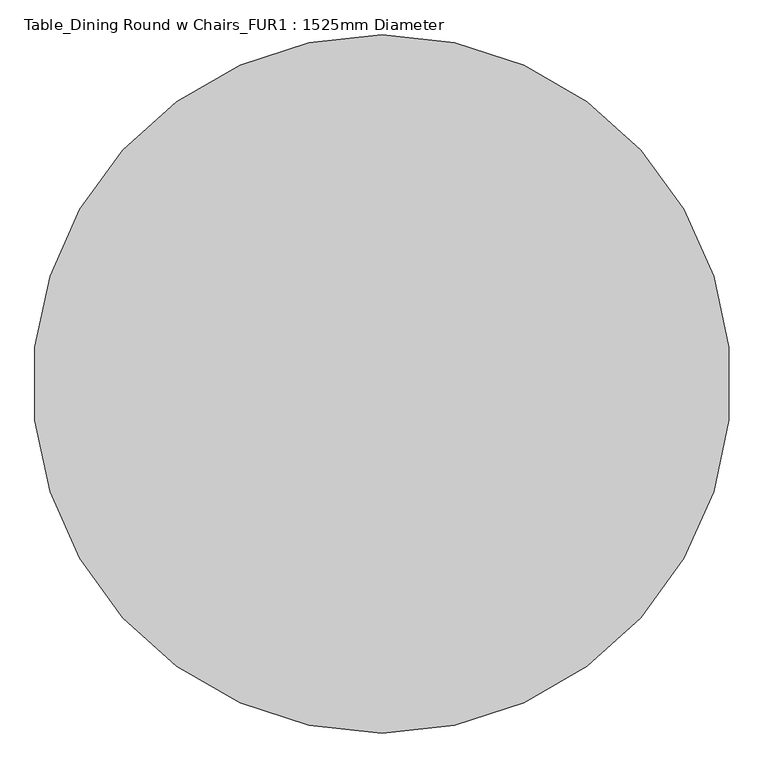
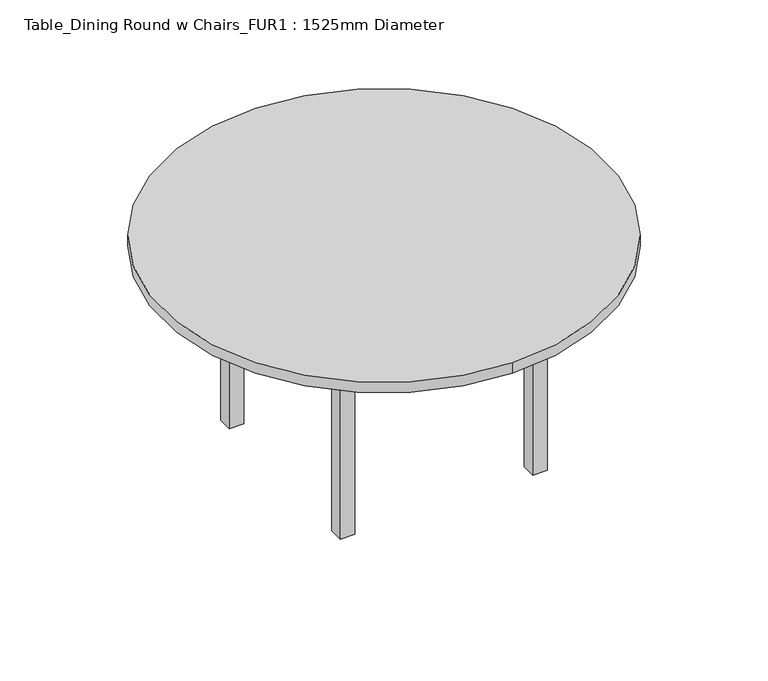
"""IFC4 building model written with IfcOpenShell, lengths in millimetres: furniture geometry, Table_Dining Round w Chairs_FUR1 : 1525mm Diameter."""

from ifc_helpers import new_model, si_unit, point, frame, frame_2d, origin, origin_with_axes, place, context, project, spatial, polyline, circle_curve, trimmed, segment, composite_curve, outline, extrude, source, transform, mapped, element, save


def table_dining_round_w_chairs_fur1_1525mm_diameter_24f27617(model_context):
    return source(origin(), model_context, "Body", "SweptSolid", [
        extrude(outline(polyline([(-201.3680328, -170.9713115), (-252.1680328, -170.9713115), (-252.1680328, -120.1713115), (-201.3680328, -120.1713115), (-201.3680328, -170.9713115)])), origin_with_axes(), (0.0, 0.0, 1.0), 647.7),
        extrude(outline(polyline([(408.7319672, -170.9713115), (408.7319672, -120.1713115), (459.5319672, -120.1713115), (459.5319672, -170.9713115), (408.7319672, -170.9713115)])), origin_with_axes(), (0.0, 0.0, 1.0), 647.7),
        extrude(outline(polyline([(408.7319672, 540.7286885), (459.5319672, 540.7286885), (459.5319672, 489.9286885), (408.7319672, 489.9286885), (408.7319672, 540.7286885)])), origin_with_axes(), (0.0, 0.0, 1.0), 647.7),
        extrude(outline(polyline([(-201.3680328, 540.7286885), (-201.3680328, 489.9286885), (-252.1680328, 489.9286885), (-252.1680328, 540.7286885), (-201.3680328, 540.7286885)])), origin_with_axes(), (0.0, 0.0, 1.0), 647.7),
        extrude(outline(polyline([(484.9319672, -196.3713115), (-277.5680328, -196.3713115), (-277.5680328, 566.1286885), (484.9319672, 566.1286885), (484.9319672, -196.3713115)]), holes=[polyline([(459.5319672, -170.9713115), (459.5319672, 540.7286885), (-252.1680328, 540.7286885), (-252.1680328, -170.9713115), (459.5319672, -170.9713115)])]), frame((0.0, 0.0, 647.7), z_axis=(0.0, 0.0, 1.0), x_axis=(1.0, 0.0, 0.0)), (0.0, 0.0, 1.0), 76.2),
        extrude(outline(composite_curve([segment(trimmed(circle_curve(frame_2d((103.6819672, 184.8786885)), 762.5), [point((103.6819672, 947.3786885))], [point((103.6819672, -577.6213115))], False, "CARTESIAN"), True, "CONTINUOUS"), segment(trimmed(circle_curve(frame_2d((103.6819672, 184.8786885)), 762.5), [point((103.6819672, -577.6213115))], [point((103.6819672, 947.3786885))], False, "CARTESIAN"), True, "CONTINUOUS")], self_intersect=False)), frame((0.0, 0.0, 723.9), z_axis=(0.0, 0.0, 1.0), x_axis=(1.0, 0.0, 0.0)), (0.0, 0.0, 1.0), 38.1),
    ])


if __name__ == "__main__":
    model = new_model("IFC4")
    model_context = context("Model", 3, world=origin())
    ifc_project = project(units=[si_unit("LENGTHUNIT", "METRE", prefix="MILLI")], contexts=[model_context])
    site = spatial("IfcSite", under=ifc_project)
    building = spatial("IfcBuilding", under=site)
    placement = place(None, origin())
    table_dining_round_w_chairs_fur1_1525mm_diameter_shape = table_dining_round_w_chairs_fur1_1525mm_diameter_24f27617(model_context)
    element("IfcFurniture", 1, ObjectType="Table_Dining Round w Chairs_FUR1 : 1525mm Diameter", at=placement, inside=building, context=model_context, shape_type="MappedRepresentation", body=[
        mapped(table_dining_round_w_chairs_fur1_1525mm_diameter_shape, transform((0.0, 0.0, 0.0), x_axis=(1.0, 0.0, 0.0), y_axis=(0.0, 1.0, 0.0), z_axis=(0.0, 0.0, 1.0))),
    ])
    save(model, "model.ifc")
